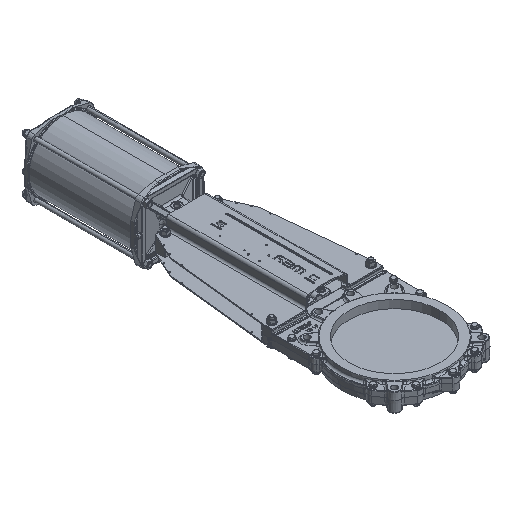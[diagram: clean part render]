
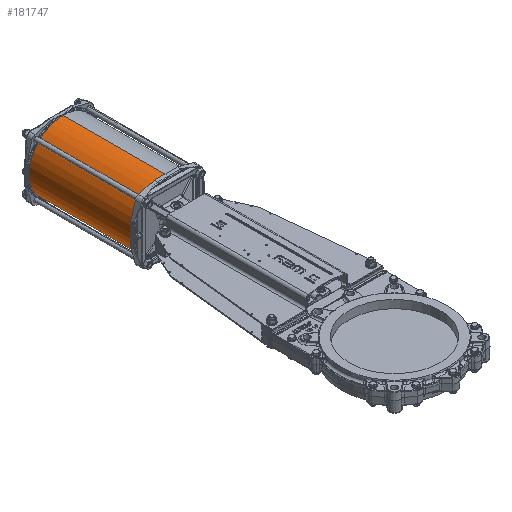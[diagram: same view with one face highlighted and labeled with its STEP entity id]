
A CAD part, isometric view. The second image highlights one B-rep face of the part: STEP entity #181747.
In plain terms, the highlighted cylindrical face has radius 131 mm (diameter 262 mm), a partial arc.
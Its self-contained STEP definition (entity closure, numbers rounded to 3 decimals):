
#1101 = DIRECTION ( 'NONE',  ( 0., 0., 1. ) ) ;
#18626 = FACE_OUTER_BOUND ( 'NONE', #196509, .T. ) ;
#21458 = VERTEX_POINT ( 'NONE', #117034 ) ;
#25898 = EDGE_CURVE ( 'NONE', #21458, #89761, #78767, .T. ) ;
#33775 = VECTOR ( 'NONE', #203081, 1000. ) ;
#34389 = DIRECTION ( 'NONE',  ( 0., -1., 0. ) ) ;
#42513 = CYLINDRICAL_SURFACE ( 'NONE', #195043, 131. ) ;
#47192 = AXIS2_PLACEMENT_3D ( 'NONE', #88271, #206512, #105282 ) ;
#49286 = ORIENTED_EDGE ( 'NONE', *, *, #165814, .F. ) ;
#61064 = ORIENTED_EDGE ( 'NONE', *, *, #79995, .F. ) ;
#62311 = VECTOR ( 'NONE', #34389, 1000. ) ;
#64822 = CARTESIAN_POINT ( 'NONE',  ( 0., 1042.777, -131.25 ) ) ;
#65293 = VERTEX_POINT ( 'NONE', #121292 ) ;
#78767 = LINE ( 'NONE', #64822, #33775 ) ;
#79995 = EDGE_CURVE ( 'NONE', #21458, #65293, #101875, .T. ) ;
#88271 = CARTESIAN_POINT ( 'NONE',  ( 0., 1279., -0.25 ) ) ;
#89761 = VERTEX_POINT ( 'NONE', #211628 ) ;
#94589 = ORIENTED_EDGE ( 'NONE', *, *, #25898, .T. ) ;
#96353 = AXIS2_PLACEMENT_3D ( 'NONE', #203775, #102607, #1101 ) ;
#101875 = CIRCLE ( 'NONE', #47192, 131. ) ;
#102607 = DIRECTION ( 'NONE',  ( 0., -1., 0. ) ) ;
#105282 = DIRECTION ( 'NONE',  ( 0., 0., -1. ) ) ;
#117034 = CARTESIAN_POINT ( 'NONE',  ( 0., 1279., -131.25 ) ) ;
#121292 = CARTESIAN_POINT ( 'NONE',  ( 0., 1279., 130.75 ) ) ;
#132590 = VERTEX_POINT ( 'NONE', #155630 ) ;
#135758 = CARTESIAN_POINT ( 'NONE',  ( 0., 1042.777, 130.75 ) ) ;
#145857 = EDGE_CURVE ( 'NONE', #65293, #132590, #191985, .T. ) ;
#152937 = DIRECTION ( 'NONE',  ( 0., 0., 1. ) ) ;
#155630 = CARTESIAN_POINT ( 'NONE',  ( 0., 878., 130.75 ) ) ;
#165814 = EDGE_CURVE ( 'NONE', #132590, #89761, #214412, .T. ) ;
#169179 = DIRECTION ( 'NONE',  ( 0., -1., 0. ) ) ;
#181747 = ADVANCED_FACE ( 'NONE', ( #18626 ), #42513, .T. ) ;
#186177 = CARTESIAN_POINT ( 'NONE',  ( 0., 1042.777, -0.25 ) ) ;
#191985 = LINE ( 'NONE', #135758, #62311 ) ;
#195043 = AXIS2_PLACEMENT_3D ( 'NONE', #186177, #169179, #152937 ) ;
#196509 = EDGE_LOOP ( 'NONE', ( #61064, #94589, #49286, #199933 ) ) ;
#199933 = ORIENTED_EDGE ( 'NONE', *, *, #145857, .F. ) ;
#203081 = DIRECTION ( 'NONE',  ( 0., -1., 0. ) ) ;
#203775 = CARTESIAN_POINT ( 'NONE',  ( 0., 878., -0.25 ) ) ;
#206512 = DIRECTION ( 'NONE',  ( 0., 1., 0. ) ) ;
#211628 = CARTESIAN_POINT ( 'NONE',  ( 0., 878., -131.25 ) ) ;
#214412 = CIRCLE ( 'NONE', #96353, 131. ) ;
